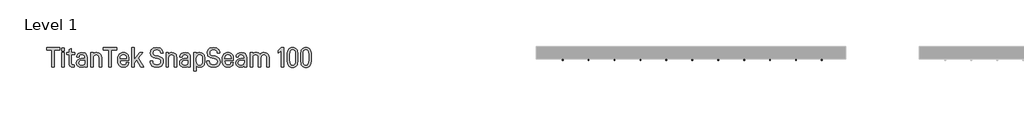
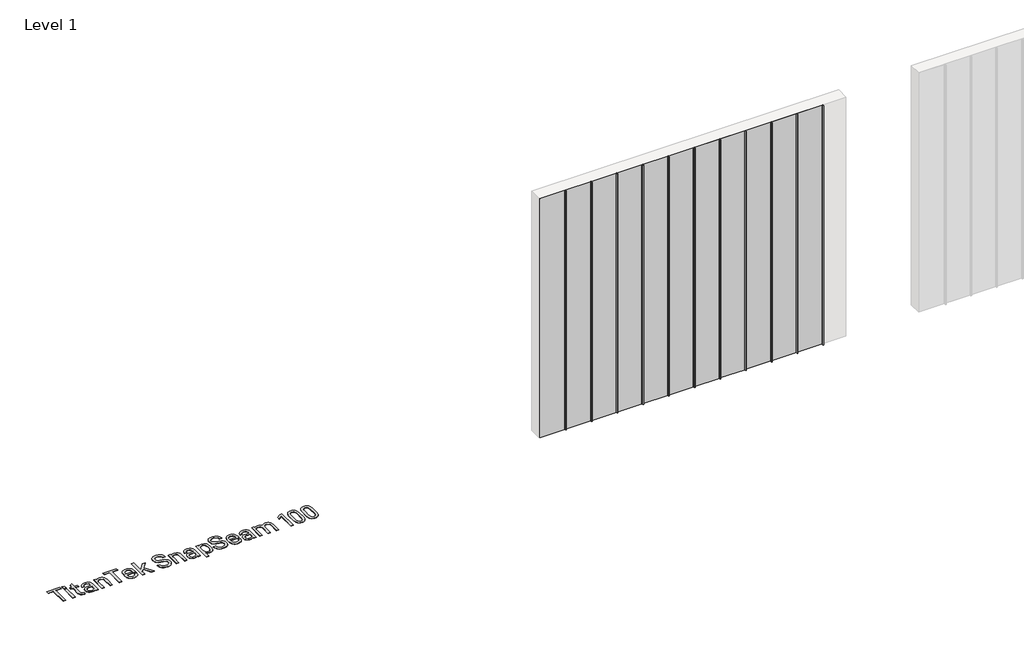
# One storey, part 22 of 33: 2 proxies.
"""IFC4 building model written with IfcOpenShell, lengths in millimetres."""

from ifc_helpers import new_model, si_unit, origin, origin_with_axes, place, context, project, spatial, polyline, outline, extrude, transform, mapped, element, save
from components import titantek_snapseam_100_panel_aluminum_slate_gray_e5d117f6

model = new_model("IFC4")

# Units and contexts
model_context = context("Model", 3, world=origin())
ifc_project = project(units=[si_unit("LENGTHUNIT", "METRE", prefix="MILLI")], contexts=[model_context])

# Site, building, storey
site = spatial("IfcSite", under=ifc_project)
building = spatial("IfcBuilding", under=site)
storey = spatial("IfcBuildingStorey", under=building, Name="Level 1", Elevation=0.0)

# Proxies
placement = place(None, origin())
element("IfcBuildingElementProxy", 1, Name="600mm Arial 2", ObjectType="600mm Arial 2", at=placement, inside=storey, context=model_context, shape_type="SweptSolid", body=[
    extrude(outline(polyline([(-9914.9924556, 72220.4128343), (-9914.9924556, 71952.9873502), (-9954.4439015, 71952.9873502), (-9954.4439015, 72220.4128343), (-10038.8787304, 72220.4128343), (-10038.8787304, 72257.3166776), (-9830.5576267, 72257.3166776), (-9830.5576267, 72220.4128343), (-9914.9924556, 72220.4128343)])), origin_with_axes(), (0.0, 0.0, 1.0), 5.0),
    extrude(outline(polyline([(-9763.1553408, 72253.0221475), (-9763.1553408, 72205.8551051), (-9802.6067867, 72205.8551051), (-9802.6067867, 72253.0221475), (-9763.1553408, 72253.0221475)])), origin_with_axes(), (0.0, 0.0, 1.0), 5.0),
    extrude(outline(polyline([(-9764.0288046, 72178.8505176), (-9764.0288046, 71952.9873502), (-9801.733323, 71952.9873502), (-9801.733323, 72178.8505176), (-9764.0288046, 72178.8505176)])), origin_with_axes(), (0.0, 0.0, 1.0), 5.0),
    extrude(outline(polyline([(-9648.294858, 72012.601251), (-9646.8208879, 72001.5191797), (-9642.3989777, 71993.6034145), (-9635.0291273, 71988.8539554), (-9624.7113368, 71987.2708023), (-9603.2386864, 71987.2708023), (-9603.2386864, 71952.9873502), (-9629.3698101, 71952.9873502), (-9653.1535001, 71956.9543314), (-9671.3688587, 71968.855275), (-9682.6692959, 71987.3981825), (-9686.4361083, 72011.2910554), (-9686.4361083, 72147.1146681), (-9720.2828285, 72147.1146681), (-9720.2828285, 72178.8505176), (-9686.4361083, 72178.8505176), (-9686.4361083, 72226.8910237), (-9648.294858, 72244.8698192), (-9648.294858, 72178.8505176), (-9599.3808881, 72178.8505176), (-9599.3808881, 72147.1146681), (-9648.294858, 72147.1146681), (-9648.294858, 72012.601251)])), origin_with_axes(), (0.0, 0.0, 1.0), 5.0),
    extrude(outline(polyline([(-9422.8684225, 72162.1091291), (-9413.2830677, 72151.3409589), (-9406.4363858, 72138.2526505), (-9400.9590402, 72105.1156196), (-9400.9590402, 71952.9873502), (-9438.2996154, 71952.9873502), (-9438.2996154, 71969.2920069), (-9456.7151427, 71956.8451485), (-9473.7476858, 71952.0410978), (-9493.9829293, 71950.4397476), (-9526.0281305, 71954.7160806), (-9550.1029751, 71967.5450794), (-9565.2248162, 71989.3270816), (-9570.2654299, 72018.5699199), (-9565.1338304, 72046.2114081), (-9549.7390318, 72067.4111012), (-9525.063681, 72080.6222403), (-9493.1094655, 72085.0259534), (-9438.7363472, 72085.0259534), (-9438.7363472, 72105.5523515), (-9441.6296959, 72124.441005), (-9450.3097419, 72138.1616647), (-9464.2305704, 72146.1866129), (-9483.7197302, 72148.8615956), (-9502.2262434, 72146.6051476), (-9515.819523, 72139.8358036), (-9524.1720201, 72129.4816187), (-9526.9561857, 72115.4516073), (-9526.9561857, 72109.8468816), (-9563.8600291, 72109.8468816), (-9563.8600291, 72116.2522824), (-9558.4008807, 72143.2932642), (-9542.0234354, 72164.2927885), (-9516.8203668, 72177.4493362), (-9484.1564621, 72181.8348521), (-9448.6719974, 72176.9034213), (-9434.5600987, 72170.7391329), (-9422.8684225, 72162.1091291)]), holes=[polyline([(-9450.6736851, 71994.5496669), (-9441.7206817, 72009.4531421), (-9438.7363472, 72031.0167784), (-9438.7363472, 72054.9642428), (-9488.8149354, 72054.9642428), (-9507.9538, 72052.7168933), (-9521.6244175, 72045.974845), (-9529.826788, 72034.7380979), (-9532.5609115, 72019.0066518), (-9529.8540837, 72003.0522906), (-9521.7336004, 71991.6563182), (-9508.1994616, 71984.8187348), (-9489.2516673, 71982.5395404), (-9466.104878, 71985.542072), (-9450.6736851, 71994.5496669)])]), origin_with_axes(), (0.0, 0.0, 1.0), 5.0),
    extrude(outline(polyline([(-9306.6977441, 72178.8505176), (-9306.6977441, 72160.4349903), (-9288.2822167, 72173.6825238), (-9271.1222935, 72179.4692211), (-9252.2518372, 72181.3981202), (-9219.9154813, 72175.9389718), (-9206.7907787, 72169.1150363), (-9195.6950595, 72159.5615265), (-9187.0650557, 72147.9790333), (-9180.9007673, 72134.1946835), (-9175.9693365, 72100.0204144), (-9175.9693365, 71952.9873502), (-9213.673855, 71952.9873502), (-9213.673855, 72095.7258843), (-9216.6763866, 72118.1083928), (-9225.6839815, 72133.8671346), (-9240.3781893, 72143.4752358), (-9259.567096, 72146.6779363), (-9278.7378056, 72143.4752358), (-9293.3774219, 72133.8671346), (-9303.0401146, 72117.453295), (-9306.2610122, 72095.7258843), (-9306.2610122, 71952.9873502), (-9343.9655306, 71952.9873502), (-9343.9655306, 72178.8505176), (-9306.6977441, 72178.8505176)])), origin_with_axes(), (0.0, 0.0, 1.0), 5.0),
    extrude(outline(polyline([(-9025.2240514, 72220.4128343), (-9025.2240514, 71952.9873502), (-9064.6754974, 71952.9873502), (-9064.6754974, 72220.4128343), (-9149.1103263, 72220.4128343), (-9149.1103263, 72257.3166776), (-8940.7892225, 72257.3166776), (-8940.7892225, 72220.4128343), (-9025.2240514, 72220.4128343)])), origin_with_axes(), (0.0, 0.0, 1.0), 5.0),
    extrude(outline(polyline([(-8884.5235994, 72047.2486463), (-8881.1025331, 72017.8329349), (-8870.8393341, 71998.8805913), (-8854.3527058, 71988.5900965), (-8832.2613519, 71985.1599316), (-8812.990558, 71987.7257314), (-8798.8513635, 71995.4231306), (-8790.1713175, 72007.1966941), (-8787.2779689, 72022.86445), (-8787.2779689, 72028.3963871), (-8750.3741256, 72028.3963871), (-8750.3741256, 72021.9909863), (-8756.0516399, 71992.8391337), (-8763.1485329, 71980.528754), (-8773.084183, 71969.7287387), (-8799.7976159, 71955.2619954), (-8834.3722226, 71950.4397476), (-8853.3222916, 71951.9387388), (-8870.2843206, 71956.4357123), (-8885.2583098, 71963.9306682), (-8898.2442591, 71974.4236064), (-8908.7371973, 71988.0237099), (-8916.2321532, 72004.8401617), (-8920.7291267, 72024.8729617), (-8922.2281179, 72048.1221101), (-8922.2281179, 72085.8266285), (-8920.7314014, 72108.5321367), (-8916.2412518, 72128.1714231), (-8908.7576691, 72144.7444879), (-8898.2806535, 72158.2513309), (-8885.4971476, 72168.5691214), (-8870.7301511, 72175.9389718), (-8853.979664, 72180.360882), (-8835.2456864, 72181.8348521), (-8816.8438069, 72180.360882), (-8800.2161506, 72175.9389718), (-8785.3627176, 72168.5691214), (-8772.2835079, 72158.2513309), (-8761.9657174, 72144.9082623), (-8754.595867, 72128.389789), (-8750.1739568, 72108.6959111), (-8748.6999867, 72085.8266285), (-8748.6999867, 72055.8377065), (-8884.5235994, 72055.8377065), (-8884.5235994, 72047.2486463)]), holes=[polyline([(-8871.2760659, 72133.4304027), (-8881.2117161, 72115.30603), (-8884.5235994, 72086.7000923), (-8786.4045051, 72086.2633604), (-8786.4045051, 72089.6844267), (-8789.6254027, 72116.9255774), (-8799.2880954, 72134.3038665), (-8814.9012599, 72143.5844188), (-8835.2456864, 72146.6779363), (-8855.60831, 72143.3660529), (-8871.2760659, 72133.4304027)])]), origin_with_axes(), (0.0, 0.0, 1.0), 5.0),
    extrude(outline(polyline([(-8663.391694, 72020.3168474), (-8663.391694, 71952.9873502), (-8701.0962125, 71952.9873502), (-8701.0962125, 72257.3166776), (-8663.391694, 72257.3166776), (-8663.391694, 72070.8321675), (-8575.0990669, 72178.8505176), (-8528.3687564, 72178.8505176), (-8602.5403863, 72091.8680861), (-8517.6688255, 71952.9873502), (-8563.5256722, 71952.9873502), (-8627.7980463, 72062.6798392), (-8663.391694, 72020.3168474)])), origin_with_axes(), (0.0, 0.0, 1.0), 5.0),
    extrude(outline(polyline([(-8385.9213769, 71973.1498051), (-8398.1089257, 71986.7931268), (-8407.3030415, 72003.3388959), (-8413.5037243, 72022.7871121), (-8416.710974, 72045.1377756), (-8377.3323167, 72045.1377756), (-8371.7321403, 72019.4388344), (-8358.7894092, 72001.0824478), (-8338.5041236, 71990.0686159), (-8310.8762833, 71986.3973386), (-8282.8344575, 71989.7274191), (-8262.9085658, 71999.7176607), (-8251.0076222, 72015.5855855), (-8247.040641, 72037.4221792), (-8250.1523556, 72057.020522), (-8259.4874994, 72071.2688994), (-8275.7375646, 72081.0225779), (-8298.8661567, 72087.1368241), (-8332.3489337, 72092.7415498), (-8365.1220214, 72102.3678482), (-8389.7791751, 72118.4359417), (-8398.7594743, 72129.313295), (-8405.1739737, 72142.2196317), (-8410.3055732, 72174.1192557), (-8408.563195, 72193.5902184), (-8403.3360604, 72210.8047331), (-8394.6241693, 72225.7627997), (-8382.4275219, 72238.4644184), (-8367.6923705, 72248.4000685), (-8350.8554469, 72255.4969615), (-8310.8762833, 72261.1744758), (-8273.7176797, 72255.8063132), (-8257.7860648, 72249.0961099), (-8243.6195747, 72239.7018254), (-8231.1818149, 72226.8455308), (-8221.7465867, 72210.9867047), (-8215.3138901, 72192.1253469), (-8211.8837252, 72170.2614574), (-8251.3351711, 72170.2614574), (-8256.2029118, 72194.4636821), (-8267.8217994, 72211.7509854), (-8286.1918338, 72222.1233674), (-8311.3130151, 72225.5808281), (-8337.225773, 72222.2507476), (-8355.8596662, 72212.260506), (-8367.4330609, 72196.6473415), (-8371.2908591, 72176.302915), (-8368.3975105, 72158.5060912), (-8359.7174645, 72145.4405293), (-8344.2862716, 72135.9052167), (-8322.012946, 72129.5726045), (-8287.7294939, 72123.6039356), (-8253.6644078, 72113.613694), (-8228.6251137, 72096.5993481), (-8219.4218993, 72085.285263), (-8212.8481748, 72071.9421944), (-8207.5891951, 72039.1691067), (-8209.3861648, 72019.1567784), (-8214.7770739, 72001.555574), (-8223.7619223, 71986.3654935), (-8236.3407101, 71973.586537), (-8251.7264101, 71963.4598166), (-8269.6415155, 71956.226445), (-8290.0860263, 71951.886422), (-8313.0599426, 71950.4397476), (-8353.9853586, 71956.117262), (-8371.0770425, 71963.2141549), (-8385.9213769, 71973.1498051)])), origin_with_axes(), (0.0, 0.0, 1.0), 5.0),
    extrude(outline(polyline([(-8128.1039941, 72178.8505176), (-8128.1039941, 72160.4349903), (-8109.6884667, 72173.6825238), (-8092.5285435, 72179.4692211), (-8073.6580872, 72181.3981202), (-8041.3217313, 72175.9389718), (-8028.1970287, 72169.1150363), (-8017.1013095, 72159.5615265), (-8008.4713057, 72147.9790333), (-8002.3070173, 72134.1946835), (-7997.3755865, 72100.0204144), (-7997.3755865, 71952.9873502), (-8035.080105, 71952.9873502), (-8035.080105, 72095.7258843), (-8038.0826366, 72118.1083928), (-8047.0902315, 72133.8671346), (-8061.7844393, 72143.4752358), (-8080.973346, 72146.6779363), (-8100.1440556, 72143.4752358), (-8114.7836719, 72133.8671346), (-8124.4463646, 72117.453295), (-8127.6672622, 72095.7258843), (-8127.6672622, 71952.9873502), (-8165.3717806, 71952.9873502), (-8165.3717806, 72178.8505176), (-8128.1039941, 72178.8505176)])), origin_with_axes(), (0.0, 0.0, 1.0), 5.0),
    extrude(outline(polyline([(-7806.3781804, 72162.1091291), (-7796.7928256, 72151.3409589), (-7789.9461437, 72138.2526505), (-7784.4687981, 72105.1156196), (-7784.4687981, 71952.9873502), (-7821.8093733, 71952.9873502), (-7821.8093733, 71969.2920069), (-7840.2249006, 71956.8451485), (-7857.2574437, 71952.0410978), (-7877.4926872, 71950.4397476), (-7909.5378884, 71954.7160806), (-7933.612733, 71967.5450794), (-7948.7345741, 71989.3270816), (-7953.7751878, 72018.5699199), (-7948.6435883, 72046.2114081), (-7933.2487897, 72067.4111012), (-7908.5734389, 72080.6222403), (-7876.6192234, 72085.0259534), (-7822.2461052, 72085.0259534), (-7822.2461052, 72105.5523515), (-7825.1394538, 72124.441005), (-7833.8194998, 72138.1616647), (-7847.7403283, 72146.1866129), (-7867.2294882, 72148.8615956), (-7885.7360013, 72146.6051476), (-7899.3292809, 72139.8358036), (-7907.681778, 72129.4816187), (-7910.4659437, 72115.4516073), (-7910.4659437, 72109.8468816), (-7947.369787, 72109.8468816), (-7947.369787, 72116.2522824), (-7941.9106386, 72143.2932642), (-7925.5331933, 72164.2927885), (-7900.3301248, 72177.4493362), (-7867.66622, 72181.8348521), (-7832.1817553, 72176.9034213), (-7818.0698566, 72170.7391329), (-7806.3781804, 72162.1091291)]), holes=[polyline([(-7834.183443, 71994.5496669), (-7825.2304396, 72009.4531421), (-7822.2461052, 72031.0167784), (-7822.2461052, 72054.9642428), (-7872.3246933, 72054.9642428), (-7891.4635579, 72052.7168933), (-7905.1341754, 72045.974845), (-7913.3365459, 72034.7380979), (-7916.0706694, 72019.0066518), (-7913.3638416, 72003.0522906), (-7905.2433583, 71991.6563182), (-7891.7092195, 71984.8187348), (-7872.7614252, 71982.5395404), (-7849.6146359, 71985.542072), (-7834.183443, 71994.5496669)])]), origin_with_axes(), (0.0, 0.0, 1.0), 5.0),
    extrude(outline(polyline([(-7580.0782812, 72158.6880628), (-7570.3337012, 72145.9455005), (-7563.373287, 72129.9911392), (-7559.1970384, 72110.824979), (-7557.8049556, 72088.4470198), (-7557.8049556, 72043.82758), (-7563.264104, 72002.1742775), (-7570.0880395, 71986.0834375), (-7579.6415493, 71973.1498051), (-7591.310479, 71963.2141549), (-7604.4806746, 71956.117262), (-7635.3248632, 71950.4397476), (-7666.5147978, 71955.8988961), (-7679.1345293, 71962.7228316), (-7689.7707701, 71972.2763413), (-7689.7707701, 71887.8415124), (-7727.4752885, 71887.8415124), (-7727.4752885, 72178.8505176), (-7689.7707701, 72178.8505176), (-7689.7707701, 72158.2513309), (-7673.1021703, 72172.4451168), (-7656.4881619, 72179.1598694), (-7637.5085226, 72181.3981202), (-7605.3541383, 72175.7206059), (-7591.8563939, 72168.6237129), (-7580.0782812, 72158.6880628)]), holes=[polyline([(-7595.509474, 72045.5745075), (-7595.509474, 72086.2633604), (-7598.3755269, 72112.6947373), (-7606.9736857, 72131.5742923), (-7621.3039503, 72142.9020253), (-7641.3663208, 72146.6779363), (-7662.1474791, 72142.6199693), (-7677.3239117, 72130.4460683), (-7686.6590555, 72110.0652475), (-7689.7707701, 72084.1524897), (-7689.7707701, 72046.0112394), (-7686.5589711, 72021.2540013), (-7676.9235742, 72001.8649258), (-7661.173931, 71989.3361801), (-7639.6193933, 71985.1599316), (-7620.3213036, 71988.9358426), (-7606.5369538, 72000.2635756), (-7598.266344, 72019.1431305), (-7595.509474, 72045.5745075)])]), origin_with_axes(), (0.0, 0.0, 1.0), 5.0),
    extrude(outline(polyline([(-7496.1529727, 71973.1498051), (-7508.3405216, 71986.7931268), (-7517.5346374, 72003.3388959), (-7523.7353201, 72022.7871121), (-7526.9425698, 72045.1377756), (-7487.5639126, 72045.1377756), (-7481.9637361, 72019.4388344), (-7469.0210051, 72001.0824478), (-7448.7357194, 71990.0686159), (-7421.1078791, 71986.3973386), (-7393.0660534, 71989.7274191), (-7373.1401616, 71999.7176607), (-7361.2392181, 72015.5855855), (-7357.2722369, 72037.4221792), (-7360.3839515, 72057.020522), (-7369.7190953, 72071.2688994), (-7385.9691604, 72081.0225779), (-7409.0977526, 72087.1368241), (-7442.5805296, 72092.7415498), (-7475.3536173, 72102.3678482), (-7500.010771, 72118.4359417), (-7508.9910701, 72129.313295), (-7515.4055695, 72142.2196317), (-7520.537169, 72174.1192557), (-7518.7947908, 72193.5902184), (-7513.5676562, 72210.8047331), (-7504.8557652, 72225.7627997), (-7492.6591178, 72238.4644184), (-7477.9239663, 72248.4000685), (-7461.0870427, 72255.4969615), (-7421.1078791, 72261.1744758), (-7383.9492755, 72255.8063132), (-7368.0176607, 72249.0961099), (-7353.8511705, 72239.7018254), (-7341.4134107, 72226.8455308), (-7331.9781825, 72210.9867047), (-7325.545486, 72192.1253469), (-7322.115321, 72170.2614574), (-7361.566767, 72170.2614574), (-7366.4345077, 72194.4636821), (-7378.0533952, 72211.7509854), (-7396.4234297, 72222.1233674), (-7421.544611, 72225.5808281), (-7447.4573688, 72222.2507476), (-7466.0912621, 72212.260506), (-7477.6646568, 72196.6473415), (-7481.522455, 72176.302915), (-7478.6291063, 72158.5060912), (-7469.9490603, 72145.4405293), (-7454.5178674, 72135.9052167), (-7432.2445419, 72129.5726045), (-7397.9610898, 72123.6039356), (-7363.8960036, 72113.613694), (-7338.8567095, 72096.5993481), (-7329.6534952, 72085.285263), (-7323.0797706, 72071.9421944), (-7317.820791, 72039.1691067), (-7319.6177606, 72019.1567784), (-7325.0086697, 72001.555574), (-7333.9935182, 71986.3654935), (-7346.572306, 71973.586537), (-7361.9580059, 71963.4598166), (-7379.8731114, 71956.226445), (-7400.3176222, 71951.886422), (-7423.2915385, 71950.4397476), (-7464.2169545, 71956.117262), (-7481.3086383, 71963.2141549), (-7496.1529727, 71973.1498051)])), origin_with_axes(), (0.0, 0.0, 1.0), 5.0),
    extrude(outline(polyline([(-7244.7409907, 72047.2486463), (-7241.3199244, 72017.8329349), (-7231.0567254, 71998.8805913), (-7214.5700971, 71988.5900965), (-7192.4787432, 71985.1599316), (-7173.2079493, 71987.7257314), (-7159.0687548, 71995.4231306), (-7150.3887089, 72007.1966941), (-7147.4953602, 72022.86445), (-7147.4953602, 72028.3963871), (-7110.5915169, 72028.3963871), (-7110.5915169, 72021.9909863), (-7116.2690312, 71992.8391337), (-7123.3659242, 71980.528754), (-7133.3015743, 71969.7287387), (-7160.0150072, 71955.2619954), (-7194.5896139, 71950.4397476), (-7213.5396829, 71951.9387388), (-7230.5017119, 71956.4357123), (-7245.4757011, 71963.9306682), (-7258.4616504, 71974.4236064), (-7268.9545886, 71988.0237099), (-7276.4495445, 72004.8401617), (-7280.946518, 72024.8729617), (-7282.4455092, 72048.1221101), (-7282.4455092, 72085.8266285), (-7280.9487927, 72108.5321367), (-7276.4586431, 72128.1714231), (-7268.9750604, 72144.7444879), (-7258.4980448, 72158.2513309), (-7245.7145389, 72168.5691214), (-7230.9475424, 72175.9389718), (-7214.1970553, 72180.360882), (-7195.4630777, 72181.8348521), (-7177.0611982, 72180.360882), (-7160.4335419, 72175.9389718), (-7145.5801089, 72168.5691214), (-7132.5008992, 72158.2513309), (-7122.1831087, 72144.9082623), (-7114.8132583, 72128.389789), (-7110.3913481, 72108.6959111), (-7108.917378, 72085.8266285), (-7108.917378, 72055.8377065), (-7244.7409907, 72055.8377065), (-7244.7409907, 72047.2486463)]), holes=[polyline([(-7231.4934572, 72133.4304027), (-7241.4291074, 72115.30603), (-7244.7409907, 72086.7000923), (-7146.6218964, 72086.2633604), (-7146.6218964, 72089.6844267), (-7149.842794, 72116.9255774), (-7159.5054867, 72134.3038665), (-7175.1186512, 72143.5844188), (-7195.4630777, 72146.6779363), (-7215.8257013, 72143.3660529), (-7231.4934572, 72133.4304027)])]), origin_with_axes(), (0.0, 0.0, 1.0), 5.0),
    extrude(outline(polyline([(-6925.9267229, 72162.1091291), (-6916.3413681, 72151.3409589), (-6909.4946861, 72138.2526505), (-6904.0173406, 72105.1156196), (-6904.0173406, 71952.9873502), (-6941.3579158, 71952.9873502), (-6941.3579158, 71969.2920069), (-6959.7734431, 71956.8451485), (-6976.8059862, 71952.0410978), (-6997.0412297, 71950.4397476), (-7029.0864309, 71954.7160806), (-7053.1612755, 71967.5450794), (-7068.2831166, 71989.3270816), (-7073.3237303, 72018.5699199), (-7068.1921308, 72046.2114081), (-7052.7973322, 72067.4111012), (-7028.1219814, 72080.6222403), (-6996.1677659, 72085.0259534), (-6941.7946476, 72085.0259534), (-6941.7946476, 72105.5523515), (-6944.6879963, 72124.441005), (-6953.3680423, 72138.1616647), (-6967.2888708, 72146.1866129), (-6986.7780306, 72148.8615956), (-7005.2845438, 72146.6051476), (-7018.8778234, 72139.8358036), (-7027.2303204, 72129.4816187), (-7030.0144861, 72115.4516073), (-7030.0144861, 72109.8468816), (-7066.9183295, 72109.8468816), (-7066.9183295, 72116.2522824), (-7061.4591811, 72143.2932642), (-7045.0817358, 72164.2927885), (-7019.8786672, 72177.4493362), (-6987.2147625, 72181.8348521), (-6951.7302978, 72176.9034213), (-6937.6183991, 72170.7391329), (-6925.9267229, 72162.1091291)]), holes=[polyline([(-6953.7319855, 71994.5496669), (-6944.7789821, 72009.4531421), (-6941.7946476, 72031.0167784), (-6941.7946476, 72054.9642428), (-6991.8732358, 72054.9642428), (-7011.0121003, 72052.7168933), (-7024.6827179, 72045.974845), (-7032.8850884, 72034.7380979), (-7035.6192119, 72019.0066518), (-7032.9123841, 72003.0522906), (-7024.7919008, 71991.6563182), (-7011.257762, 71984.8187348), (-6992.3099677, 71982.5395404), (-6969.1631784, 71985.542072), (-6953.7319855, 71994.5496669)])]), origin_with_axes(), (0.0, 0.0, 1.0), 5.0),
    extrude(outline(polyline([(-6809.7560445, 72178.8505176), (-6809.7560445, 72159.9982584), (-6791.3405171, 72173.3185806), (-6774.3989599, 72179.3782353), (-6755.3101375, 72181.3981202), (-6733.6737126, 72178.9415034), (-6715.0580165, 72171.5716531), (-6702.938707, 72162.1455234), (-6692.3479591, 72149.2983275), (-6679.8965514, 72163.3419868), (-6664.8156539, 72173.373172), (-6647.1052665, 72179.3918832), (-6626.7653894, 72181.3981202), (-6594.2834563, 72175.9389718), (-6581.0313735, 72169.1150363), (-6569.7718798, 72159.5615265), (-6560.7597357, 72147.9790333), (-6554.3224898, 72134.1946835), (-6549.1726931, 72100.0204144), (-6549.1726931, 71952.9873502), (-6586.8772116, 71952.9873502), (-6586.8772116, 72095.7258843), (-6589.8797432, 72118.1083928), (-6598.8873381, 72133.8671346), (-6613.0265325, 72143.4752358), (-6632.2973264, 72146.6779363), (-6652.0412466, 72143.4752358), (-6666.5807785, 72133.8671346), (-6675.9159223, 72117.7626468), (-6679.0276369, 72096.9632913), (-6679.0276369, 71952.9873502), (-6717.1688872, 71952.9873502), (-6717.1688872, 72095.7258843), (-6720.1714189, 72118.1083928), (-6729.1790138, 72133.8671346), (-6743.3182082, 72143.4752358), (-6762.5890021, 72146.6779363), (-6781.7870074, 72143.4752358), (-6796.4357223, 72133.8671346), (-6806.098415, 72117.453295), (-6809.3193126, 72095.7258843), (-6809.3193126, 71952.9873502), (-6847.023831, 71952.9873502), (-6847.023831, 72178.8505176), (-6809.7560445, 72178.8505176)])), origin_with_axes(), (0.0, 0.0, 1.0), 5.0),
    extrude(outline(polyline([(-6410.5103232, 72170.2614574), (-6410.5103232, 72216.1183042), (-6356.93788, 72257.3166776), (-6320.1068253, 72257.3166776), (-6320.1068253, 71952.9873502), (-6359.5582713, 71952.9873502), (-6359.5582713, 72208.4027077), (-6410.5103232, 72170.2614574)])), origin_with_axes(), (0.0, 0.0, 1.0), 5.0),
    extrude(outline(polyline([(-6263.9139909, 72164.2927885), (-6258.8278843, 72206.8377519), (-6252.470251, 72223.5518446), (-6243.5695645, 72237.2270114), (-6232.1258246, 72247.8632523), (-6218.1390314, 72255.4605671), (-6201.6091849, 72260.0189561), (-6182.5362851, 72261.5384191), (-6163.3439664, 72260.0189561), (-6146.7106236, 72255.4605671), (-6132.6362566, 72247.8632523), (-6121.1208654, 72237.2270114), (-6112.16445, 72223.5518446), (-6105.7670104, 72206.8377519), (-6100.6490588, 72164.2927885), (-6100.6490588, 72047.6853782), (-6105.7670104, 72004.3761341), (-6112.16445, 71987.3617881), (-6121.1208654, 71973.4409597), (-6132.6362566, 71962.6136486), (-6146.7106236, 71954.879855), (-6163.3439664, 71950.2395789), (-6182.5362851, 71948.6928201), (-6201.6091849, 71950.2395789), (-6218.1390314, 71954.879855), (-6232.1258246, 71962.6136486), (-6243.5695645, 71973.4409597), (-6252.470251, 71987.3617881), (-6258.8278843, 72004.3761341), (-6263.9139909, 72047.6853782), (-6263.9139909, 72164.2927885)]), holes=[polyline([(-6150.3637037, 72000.1543926), (-6142.9938534, 72021.4814658), (-6140.5372366, 72053.7268358), (-6140.5372366, 72156.5771921), (-6142.9938534, 72188.8225621), (-6150.3637037, 72210.1496352), (-6163.0926181, 72221.0679321), (-6182.4998908, 72224.7073644), (-6201.7979805, 72221.0679321), (-6214.199346, 72210.1496352), (-6221.6237878, 72188.8225621), (-6224.0986018, 72156.5771921), (-6224.0986018, 72053.7268358), (-6221.6237878, 72021.4814658), (-6214.199346, 72000.1543926), (-6201.7979805, 71989.2360958), (-6182.4998908, 71985.5966635), (-6163.0926181, 71989.2360958), (-6150.3637037, 72000.1543926)])]), origin_with_axes(), (0.0, 0.0, 1.0), 5.0),
    extrude(outline(polyline([(-6054.2826915, 72164.2927885), (-6049.1965849, 72206.8377519), (-6042.8389516, 72223.5518446), (-6033.9382651, 72237.2270114), (-6022.4945252, 72247.8632523), (-6008.507732, 72255.4605671), (-5991.9778855, 72260.0189561), (-5972.9049857, 72261.5384191), (-5953.712667, 72260.0189561), (-5937.0793242, 72255.4605671), (-5923.0049572, 72247.8632523), (-5911.4895659, 72237.2270114), (-5902.5331506, 72223.5518446), (-5896.135711, 72206.8377519), (-5891.0177594, 72164.2927885), (-5891.0177594, 72047.6853782), (-5896.135711, 72004.3761341), (-5902.5331506, 71987.3617881), (-5911.4895659, 71973.4409597), (-5923.0049572, 71962.6136486), (-5937.0793242, 71954.879855), (-5953.712667, 71950.2395789), (-5972.9049857, 71948.6928201), (-5991.9778855, 71950.2395789), (-6008.507732, 71954.879855), (-6022.4945252, 71962.6136486), (-6033.9382651, 71973.4409597), (-6042.8389516, 71987.3617881), (-6049.1965849, 72004.3761341), (-6054.2826915, 72047.6853782), (-6054.2826915, 72164.2927885)]), holes=[polyline([(-5940.7324043, 72000.1543926), (-5933.362554, 72021.4814658), (-5930.9059372, 72053.7268358), (-5930.9059372, 72156.5771921), (-5933.362554, 72188.8225621), (-5940.7324043, 72210.1496352), (-5953.4613187, 72221.0679321), (-5972.8685914, 72224.7073644), (-5992.166681, 72221.0679321), (-6004.5680465, 72210.1496352), (-6011.9924884, 72188.8225621), (-6014.4673024, 72156.5771921), (-6014.4673024, 72053.7268358), (-6011.9924884, 72021.4814658), (-6004.5680465, 72000.1543926), (-5992.166681, 71989.2360958), (-5972.8685914, 71985.5966635), (-5953.4613187, 71989.2360958), (-5940.7324043, 72000.1543926)])]), origin_with_axes(), (0.0, 0.0, 1.0), 5.0),
])
titantek_snapseam_100_panel_aluminum_slate_gray_shape = titantek_snapseam_100_panel_aluminum_slate_gray_e5d117f6(model_context)
element("IfcBuildingElementProxy", 2, Name="TitanTek SnapSeam 100 Panel : Aluminum Slate Gray", ObjectType="TitanTek SnapSeam 100 Panel : Aluminum Slate Gray", at=placement, inside=storey, context=model_context, shape_type="MappedRepresentation", body=[
    mapped(titantek_snapseam_100_panel_aluminum_slate_gray_shape, transform((-2360.5897817, 72078.6095025, 0.0), x_axis=(1.0, 0.0, 0.0), y_axis=(0.0, 1.0, 0.0), z_axis=(0.0, 0.0, 1.0))),
])

save(model, "model.ifc")
